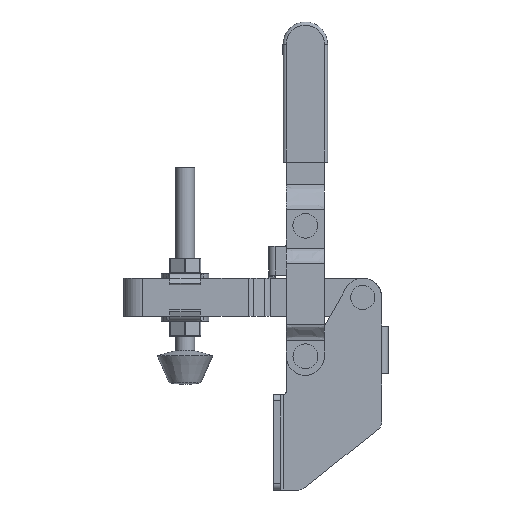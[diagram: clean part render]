
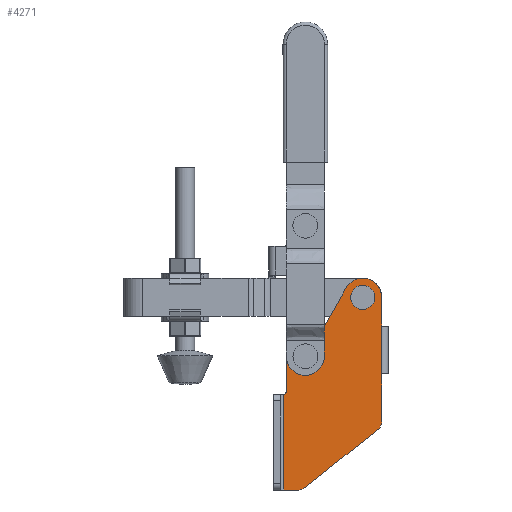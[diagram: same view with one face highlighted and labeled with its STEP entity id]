
A CAD part, front view. The second image highlights one B-rep face of the part: STEP entity #4271.
In plain terms, the highlighted planar face has unit normal (0, -1, 0).
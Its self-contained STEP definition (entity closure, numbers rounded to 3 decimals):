
#153=LINE('',#6378,#502);
#201=LINE('',#6522,#550);
#202=LINE('',#6525,#551);
#211=LINE('',#6559,#560);
#213=LINE('',#6565,#562);
#214=LINE('',#6569,#563);
#215=LINE('',#6572,#564);
#216=LINE('',#6574,#565);
#217=LINE('',#6578,#566);
#502=VECTOR('',#5061,15.);
#550=VECTOR('',#5201,9.);
#551=VECTOR('',#5204,15.058);
#560=VECTOR('',#5227,30.02);
#562=VECTOR('',#5233,16.037);
#563=VECTOR('',#5236,2.254);
#564=VECTOR('',#5239,11.);
#565=VECTOR('',#5240,4.748);
#566=VECTOR('',#5243,29.521);
#865=PLANE('',#4582);
#976=FACE_BOUND('',#1466,.T.);
#977=FACE_BOUND('',#1467,.T.);
#1188=FACE_OUTER_BOUND('',#1465,.T.);
#1465=EDGE_LOOP('',(#3198,#3199,#3200,#3201,#3202,#3203,#3204,#3205,#3206,
#3207,#3208,#3209,#3210,#3211,#3212));
#1466=EDGE_LOOP('',(#3213));
#1467=EDGE_LOOP('',(#3214));
#1746=CIRCLE('',#4503,3.8);
#1781=CIRCLE('',#4576,1.);
#1785=CIRCLE('',#4583,6.);
#1786=CIRCLE('',#4584,3.);
#1787=CIRCLE('',#4585,6.);
#1788=CIRCLE('',#4586,3.);
#1789=CIRCLE('',#4587,3.);
#1790=CIRCLE('',#4588,2.);
#1974=VERTEX_POINT('',#6324);
#1990=VERTEX_POINT('',#6364);
#1994=VERTEX_POINT('',#6376);
#2038=VERTEX_POINT('',#6520);
#2039=VERTEX_POINT('',#6524);
#2041=VERTEX_POINT('',#6530);
#2042=VERTEX_POINT('',#6531);
#2051=VERTEX_POINT('',#6557);
#2052=VERTEX_POINT('',#6562);
#2053=VERTEX_POINT('',#6564);
#2054=VERTEX_POINT('',#6566);
#2055=VERTEX_POINT('',#6568);
#2056=VERTEX_POINT('',#6570);
#2057=VERTEX_POINT('',#6573);
#2058=VERTEX_POINT('',#6575);
#2059=VERTEX_POINT('',#6577);
#2060=VERTEX_POINT('',#6580);
#2387=EDGE_CURVE('',#1974,#1974,#1746,.T.);
#2410=EDGE_CURVE('',#1994,#1990,#153,.T.);
#2479=EDGE_CURVE('',#1994,#2038,#201,.T.);
#2480=EDGE_CURVE('',#2039,#1990,#202,.T.);
#2483=EDGE_CURVE('',#2041,#2042,#1781,.T.);
#2494=EDGE_CURVE('',#2051,#2041,#211,.T.);
#2496=EDGE_CURVE('',#2038,#2052,#1785,.T.);
#2497=EDGE_CURVE('',#2052,#2053,#213,.T.);
#2498=EDGE_CURVE('',#2054,#2053,#1786,.T.);
#2499=EDGE_CURVE('',#2054,#2055,#214,.T.);
#2500=EDGE_CURVE('',#2055,#2056,#1787,.T.);
#2501=EDGE_CURVE('',#2056,#2042,#215,.T.);
#2502=EDGE_CURVE('',#2051,#2057,#216,.T.);
#2503=EDGE_CURVE('',#2058,#2057,#1788,.T.);
#2504=EDGE_CURVE('',#2058,#2059,#217,.T.);
#2505=EDGE_CURVE('',#2039,#2059,#1789,.T.);
#2506=EDGE_CURVE('',#2060,#2060,#1790,.T.);
#3198=ORIENTED_EDGE('',*,*,#2410,.F.);
#3199=ORIENTED_EDGE('',*,*,#2479,.T.);
#3200=ORIENTED_EDGE('',*,*,#2496,.T.);
#3201=ORIENTED_EDGE('',*,*,#2497,.T.);
#3202=ORIENTED_EDGE('',*,*,#2498,.F.);
#3203=ORIENTED_EDGE('',*,*,#2499,.T.);
#3204=ORIENTED_EDGE('',*,*,#2500,.T.);
#3205=ORIENTED_EDGE('',*,*,#2501,.T.);
#3206=ORIENTED_EDGE('',*,*,#2483,.F.);
#3207=ORIENTED_EDGE('',*,*,#2494,.F.);
#3208=ORIENTED_EDGE('',*,*,#2502,.T.);
#3209=ORIENTED_EDGE('',*,*,#2503,.F.);
#3210=ORIENTED_EDGE('',*,*,#2504,.T.);
#3211=ORIENTED_EDGE('',*,*,#2505,.F.);
#3212=ORIENTED_EDGE('',*,*,#2480,.T.);
#3213=ORIENTED_EDGE('',*,*,#2387,.T.);
#3214=ORIENTED_EDGE('',*,*,#2506,.T.);
#4271=ADVANCED_FACE('',(#1188,#976,#977),#865,.F.);
#4503=AXIS2_PLACEMENT_3D('',#6325,#5003,#5004);
#4576=AXIS2_PLACEMENT_3D('',#6532,#5209,#5210);
#4582=AXIS2_PLACEMENT_3D('',#6561,#5229,#5230);
#4583=AXIS2_PLACEMENT_3D('',#6563,#5231,#5232);
#4584=AXIS2_PLACEMENT_3D('',#6567,#5234,#5235);
#4585=AXIS2_PLACEMENT_3D('',#6571,#5237,#5238);
#4586=AXIS2_PLACEMENT_3D('',#6576,#5241,#5242);
#4587=AXIS2_PLACEMENT_3D('',#6579,#5244,#5245);
#4588=AXIS2_PLACEMENT_3D('',#6581,#5246,#5247);
#5003=DIRECTION('center_axis',(0.,1.,0.));
#5004=DIRECTION('ref_axis',(-1.,0.,0.));
#5061=DIRECTION('',(1.,0.,0.));
#5201=DIRECTION('',(-1.,0.,0.));
#5204=DIRECTION('',(-1.,0.,0.));
#5209=DIRECTION('center_axis',(0.,-1.,0.));
#5210=DIRECTION('ref_axis',(0.707,0.,0.707));
#5227=DIRECTION('',(-1.,0.,0.));
#5229=DIRECTION('center_axis',(0.,1.,0.));
#5230=DIRECTION('ref_axis',(0.,0.,1.));
#5231=DIRECTION('center_axis',(0.,-1.,0.));
#5232=DIRECTION('ref_axis',(-0.494,0.,-0.87));
#5233=DIRECTION('',(0.87,0.,-0.494));
#5234=DIRECTION('center_axis',(0.,-1.,0.));
#5235=DIRECTION('ref_axis',(0.864,0.,0.503));
#5236=DIRECTION('',(0.,0.,-1.));
#5237=DIRECTION('center_axis',(0.,-1.,0.));
#5238=DIRECTION('ref_axis',(0.,0.,-1.));
#5239=DIRECTION('',(1.,0.,0.));
#5240=DIRECTION('',(0.,0.,1.));
#5241=DIRECTION('center_axis',(0.,1.,0.));
#5242=DIRECTION('ref_axis',(0.944,0.,0.331));
#5243=DIRECTION('',(-0.625,0.,0.781));
#5244=DIRECTION('center_axis',(0.,1.,0.));
#5245=DIRECTION('ref_axis',(0.433,0.,0.901));
#5246=DIRECTION('center_axis',(0.,1.,0.));
#5247=DIRECTION('ref_axis',(-1.,0.,0.));
#6324=CARTESIAN_POINT('',(-49.3,-4.7,28.));
#6325=CARTESIAN_POINT('Origin',(-45.5,-4.7,28.));
#6364=CARTESIAN_POINT('',(-21.5,-4.7,34.));
#6376=CARTESIAN_POINT('',(-36.5,-4.7,34.));
#6378=CARTESIAN_POINT('',(-22.532,-4.7,34.));
#6520=CARTESIAN_POINT('',(-45.5,-4.7,34.));
#6522=CARTESIAN_POINT('',(-45.5,-4.7,34.));
#6524=CARTESIAN_POINT('',(-6.442,-4.7,34.));
#6525=CARTESIAN_POINT('',(-45.5,-4.7,34.));
#6530=CARTESIAN_POINT('',(-15.02,-4.7,3.2));
#6531=CARTESIAN_POINT('',(-16.,-4.7,4.));
#6532=CARTESIAN_POINT('Origin',(-16.,-4.7,3.));
#6557=CARTESIAN_POINT('',(15.,-4.7,3.2));
#6559=CARTESIAN_POINT('',(-8.032,-4.7,3.2));
#6561=CARTESIAN_POINT('Origin',(-16.064,-4.7,17.39));
#6562=CARTESIAN_POINT('',(-48.463,-4.7,22.783));
#6563=CARTESIAN_POINT('Origin',(-45.5,-4.7,28.));
#6564=CARTESIAN_POINT('',(-34.518,-4.7,14.862));
#6565=CARTESIAN_POINT('',(-33.,-4.7,14.));
#6566=CARTESIAN_POINT('',(-33.,-4.7,12.254));
#6567=CARTESIAN_POINT('Origin',(-36.,-4.7,12.254));
#6568=CARTESIAN_POINT('',(-33.,-4.7,10.));
#6569=CARTESIAN_POINT('',(-33.,-4.7,10.));
#6570=CARTESIAN_POINT('',(-27.,-4.7,4.));
#6571=CARTESIAN_POINT('Origin',(-27.,-4.7,10.));
#6572=CARTESIAN_POINT('',(-15.,-4.7,4.));
#6573=CARTESIAN_POINT('',(15.,-4.7,7.948));
#6574=CARTESIAN_POINT('',(15.,-4.7,9.));
#6575=CARTESIAN_POINT('',(14.343,-4.7,9.822));
#6576=CARTESIAN_POINT('Origin',(12.,-4.7,7.948));
#6577=CARTESIAN_POINT('',(-4.099,-4.7,32.874));
#6578=CARTESIAN_POINT('',(-5.,-4.7,34.));
#6579=CARTESIAN_POINT('Origin',(-6.442,-4.7,31.));
#6580=CARTESIAN_POINT('',(-25.,-4.7,10.));
#6581=CARTESIAN_POINT('Origin',(-27.,-4.7,10.));
